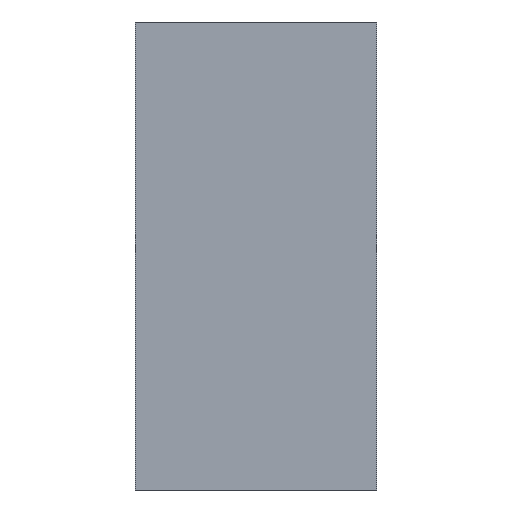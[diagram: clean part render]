
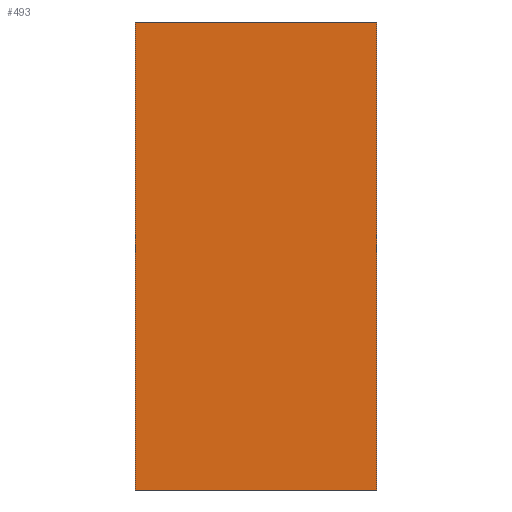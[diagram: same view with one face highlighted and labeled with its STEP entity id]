
A CAD part, left-side view. The second image highlights one B-rep face of the part: STEP entity #493.
In plain terms, the highlighted planar face has unit normal (-1, 0, 0).
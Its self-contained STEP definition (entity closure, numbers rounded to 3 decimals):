
#37=FACE_OUTER_BOUND('',#65,.T.);
#65=EDGE_LOOP('',(#379,#380,#381,#382));
#103=LINE('',#741,#163);
#109=LINE('',#753,#169);
#119=LINE('',#772,#179);
#120=LINE('',#774,#180);
#163=VECTOR('',#617,10.);
#169=VECTOR('',#625,10.);
#179=VECTOR('',#643,10.);
#180=VECTOR('',#646,10.);
#213=VERTEX_POINT('',#739);
#214=VERTEX_POINT('',#740);
#219=VERTEX_POINT('',#752);
#224=VERTEX_POINT('',#770);
#263=EDGE_CURVE('',#213,#214,#103,.T.);
#269=EDGE_CURVE('',#219,#214,#109,.T.);
#279=EDGE_CURVE('',#213,#224,#119,.T.);
#280=EDGE_CURVE('',#219,#224,#120,.T.);
#379=ORIENTED_EDGE('',*,*,#279,.T.);
#380=ORIENTED_EDGE('',*,*,#280,.F.);
#381=ORIENTED_EDGE('',*,*,#269,.T.);
#382=ORIENTED_EDGE('',*,*,#263,.F.);
#433=PLANE('',#547);
#493=ADVANCED_FACE('',(#37),#433,.T.);
#547=AXIS2_PLACEMENT_3D('',#773,#644,#645);
#617=DIRECTION('',(0.,1.,0.));
#625=DIRECTION('',(0.,0.,-1.));
#643=DIRECTION('',(0.,0.,1.));
#644=DIRECTION('center_axis',(-1.,0.,0.));
#645=DIRECTION('ref_axis',(0.,-1.,0.));
#646=DIRECTION('',(0.,-1.,0.));
#739=CARTESIAN_POINT('',(-0.014,-0.014,-1.536));
#740=CARTESIAN_POINT('',(-0.014,0.786,-1.536));
#741=CARTESIAN_POINT('',(-0.014,0.786,-1.536));
#752=CARTESIAN_POINT('',(-0.014,0.786,0.014));
#753=CARTESIAN_POINT('',(-0.014,0.786,0.));
#770=CARTESIAN_POINT('',(-0.014,-0.014,0.014));
#772=CARTESIAN_POINT('',(-0.014,-0.014,0.));
#773=CARTESIAN_POINT('Origin',(-0.014,0.786,0.));
#774=CARTESIAN_POINT('',(-0.014,0.786,0.014));
